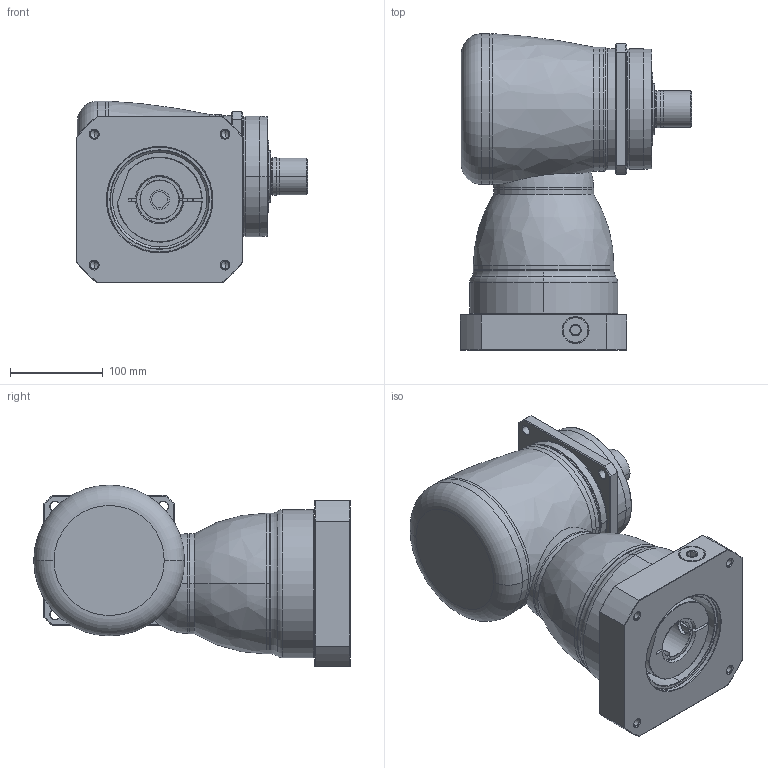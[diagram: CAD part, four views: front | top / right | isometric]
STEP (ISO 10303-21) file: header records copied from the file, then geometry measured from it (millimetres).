
FILE_DESCRIPTION((''),'2;1');
FILE_NAME('KF140_S3_1ST_42-P0409A00101_ASM','2016-07-05T',('d01943'),(''),'PRO/ENGINEER BY PARAMETRIC TECHNOLOGY CORPORATION, 2008410','PRO/ENGINEER BY PARAMETRIC TECHNOLOGY CORPORATION, 2008410','');
FILE_SCHEMA(('CONFIG_CONTROL_DESIGN'));
Length unit declared in the file: millimetre
Products named in the file (11): P1008500002; P1804500001; P0915502001; P1315500001; P1007500001; P1318500501; P0409A00101; P0503A00012; P0912505201; 21711422019; KF140_S3_1ST_42-P0409A00101_ASM
Assembly tree (10 placements, depth 2):
  KF140_S3_1ST_42-P0409A00101_ASM
    P1008500002
    P1804500001
    P0915502001
    P1315500001
    P1007500001
    P1318500501
    P0409A00101
    P0503A00012
    P0912505201
    21711422019
Bounding box: 250 x 342 x 196.5 mm (x, y, z)
Volume: 6648511.1 mm3; surface area: 557484.5 mm2
Topology: 11 solids, 11 shells, 442 faces, 982 edges, 577 vertices
Faces by surface type: cylinder 142, cone 124, plane 93, torus 62, bspline 19, sphere 2
Entity records: 17073 total; most frequent: CARTESIAN_POINT 7059, DIRECTION 2217, ORIENTED_EDGE 1924, EDGE_CURVE 962, AXIS2_PLACEMENT_3D 938, VERTEX_POINT 577, EDGE_LOOP 501, CIRCLE 494
